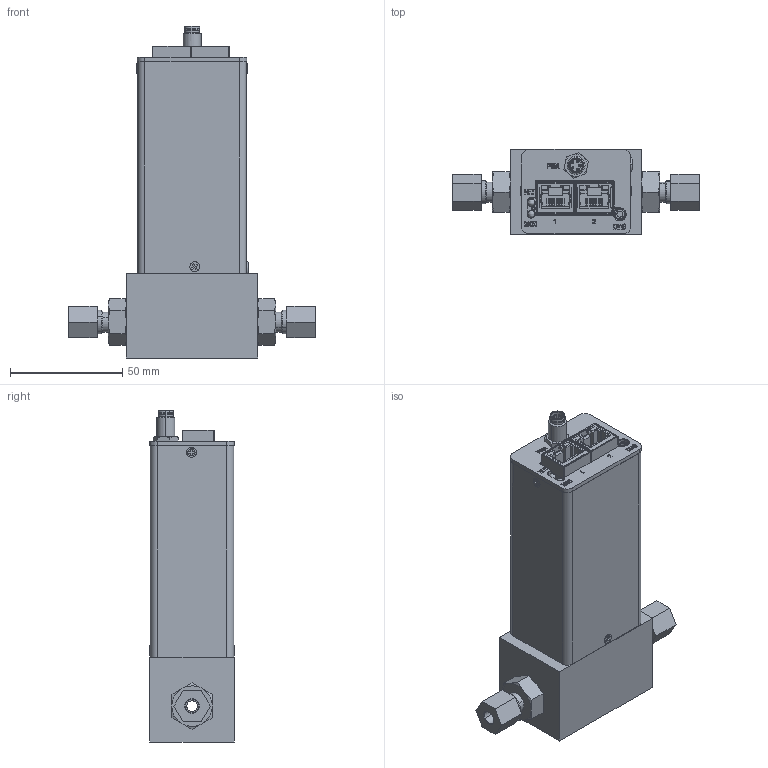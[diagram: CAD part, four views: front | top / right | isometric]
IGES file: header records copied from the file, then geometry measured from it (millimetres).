
Start section: SolidWorks IGES file using analytic representation for surfaces
Global section: file name: G:\Engineering\CAD MODELS FOR SALES\CAD MODEL STORAGE\SLA\SLA5860\CUSTOMER FILES\IGES\SLA5860-7-1H-0-A-REVB.IGS; native system: SolidWorks 2020; preprocessor: SolidWorks 2020; author: CFehr; date: 211202.093713; units: inch
Bounding box: 109.97 x 38.07 x 147.97 mm (x, y, z)
Volume: 51872.1 mm3; surface area: 76733 mm2
Topology: 37 solids, 37 shells, 1677 faces, 4506 edges, 2874 vertices
Faces by surface type: plane 1137, revolution 435, bspline 105
